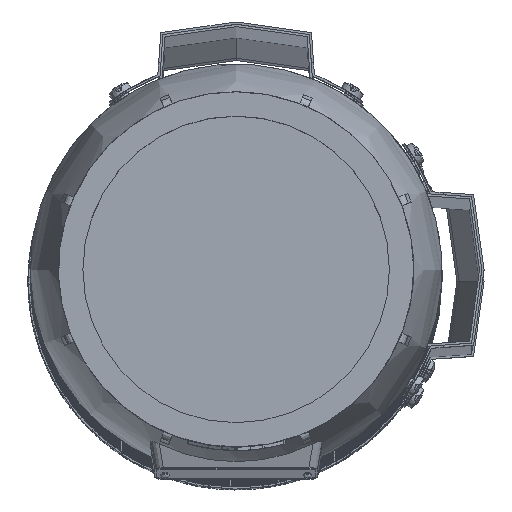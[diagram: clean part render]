
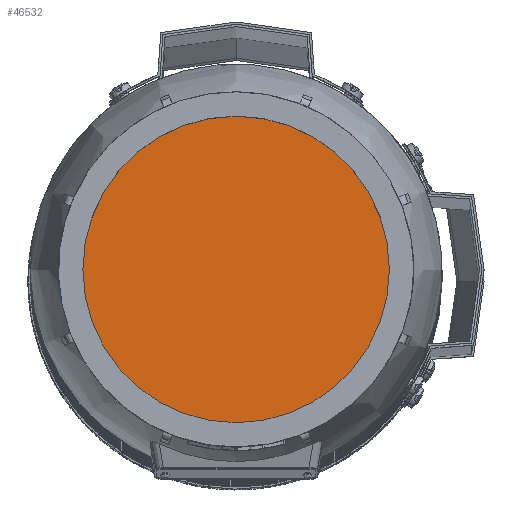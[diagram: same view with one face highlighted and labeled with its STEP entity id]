
A CAD part, top view. The second image highlights one B-rep face of the part: STEP entity #46532.
In plain terms, the highlighted planar face has unit normal (0, 0, 1) as drawn and (0, 1, 0) by its records, which use the part's own axes.
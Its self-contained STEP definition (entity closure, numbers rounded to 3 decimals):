
#9865=ORIENTED_EDGE('',*,*,#23921,.F.);
#23921=EDGE_CURVE('',#30949,#30949,#35679,.T.);
#30949=VERTEX_POINT('',#67194);
#35679=CIRCLE('',#49071,67.736);
#37802=EDGE_LOOP('',(#9865));
#41156=FACE_BOUND('',#37802,.T.);
#44528=PLANE('',#49070);
#46532=ADVANCED_FACE('',(#41156),#44528,.F.);
#49070=AXIS2_PLACEMENT_3D('',#67192,#53679,#53680);
#49071=AXIS2_PLACEMENT_3D('',#67193,#53681,#53682);
#53679=DIRECTION('',(0.,-1.,0.));
#53680=DIRECTION('',(0.,0.,-1.));
#53681=DIRECTION('',(0.,-1.,0.));
#53682=DIRECTION('',(0.,0.,-1.));
#67192=CARTESIAN_POINT('',(0.,154.,0.));
#67193=CARTESIAN_POINT('',(0.,154.,0.));
#67194=CARTESIAN_POINT('',(0.,154.,-67.736));
